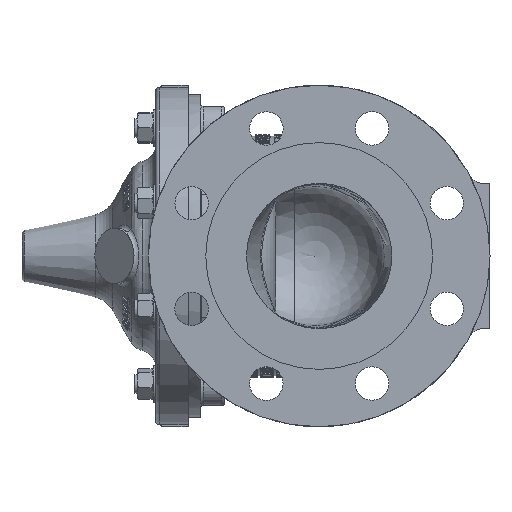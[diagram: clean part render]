
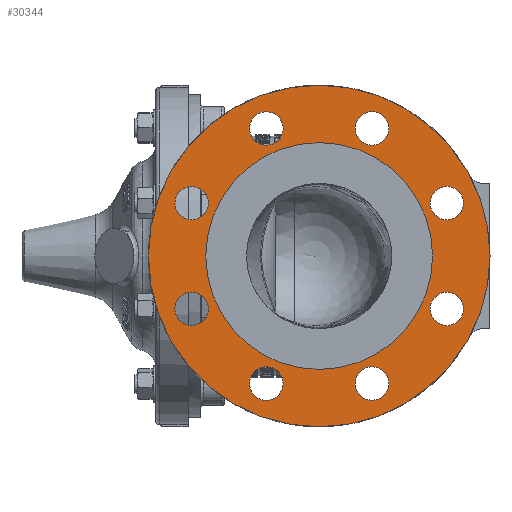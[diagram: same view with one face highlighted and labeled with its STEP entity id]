
A CAD part, left-side view. The second image highlights one B-rep face of the part: STEP entity #30344.
In plain terms, the highlighted planar face has unit normal (-1, 0, 0).
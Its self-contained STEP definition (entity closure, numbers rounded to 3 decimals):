
#4071=FACE_BOUND('',#7633,.T.);
#4072=FACE_BOUND('',#7634,.T.);
#4073=FACE_BOUND('',#7635,.T.);
#4074=FACE_BOUND('',#7636,.T.);
#4075=FACE_BOUND('',#7637,.T.);
#4076=FACE_BOUND('',#7638,.T.);
#4077=FACE_BOUND('',#7639,.T.);
#4078=FACE_BOUND('',#7640,.T.);
#4079=FACE_BOUND('',#7641,.T.);
#4513=PLANE('',#32628);
#5709=FACE_OUTER_BOUND('',#7632,.T.);
#7632=EDGE_LOOP('',(#23766));
#7633=EDGE_LOOP('',(#23767));
#7634=EDGE_LOOP('',(#23768));
#7635=EDGE_LOOP('',(#23769));
#7636=EDGE_LOOP('',(#23770));
#7637=EDGE_LOOP('',(#23771));
#7638=EDGE_LOOP('',(#23772));
#7639=EDGE_LOOP('',(#23773));
#7640=EDGE_LOOP('',(#23774));
#7641=EDGE_LOOP('',(#23775));
#9078=CIRCLE('',#31919,11.5);
#9082=CIRCLE('',#31925,11.5);
#9086=CIRCLE('',#31931,11.5);
#9090=CIRCLE('',#31937,11.5);
#9094=CIRCLE('',#31943,11.5);
#9098=CIRCLE('',#31949,11.5);
#9102=CIRCLE('',#31955,11.5);
#9202=CIRCLE('',#32084,11.5);
#9340=CIRCLE('',#32602,117.5);
#9349=CIRCLE('',#32627,78.);
#12252=VERTEX_POINT('',#48864);
#12256=VERTEX_POINT('',#48876);
#12260=VERTEX_POINT('',#48888);
#12264=VERTEX_POINT('',#48900);
#12268=VERTEX_POINT('',#48912);
#12272=VERTEX_POINT('',#48924);
#12276=VERTEX_POINT('',#48936);
#12636=VERTEX_POINT('',#55690);
#13208=VERTEX_POINT('',#73592);
#13231=VERTEX_POINT('',#73811);
#15558=EDGE_CURVE('',#12252,#12252,#9078,.T.);
#15564=EDGE_CURVE('',#12256,#12256,#9082,.T.);
#15570=EDGE_CURVE('',#12260,#12260,#9086,.T.);
#15576=EDGE_CURVE('',#12264,#12264,#9090,.T.);
#15582=EDGE_CURVE('',#12268,#12268,#9094,.T.);
#15588=EDGE_CURVE('',#12272,#12272,#9098,.T.);
#15594=EDGE_CURVE('',#12276,#12276,#9102,.T.);
#15997=EDGE_CURVE('',#12636,#12636,#9202,.T.);
#17032=EDGE_CURVE('',#13208,#13208,#9340,.T.);
#17072=EDGE_CURVE('',#13231,#13231,#9349,.T.);
#23766=ORIENTED_EDGE('',*,*,#17032,.F.);
#23767=ORIENTED_EDGE('',*,*,#15558,.T.);
#23768=ORIENTED_EDGE('',*,*,#15564,.T.);
#23769=ORIENTED_EDGE('',*,*,#15570,.T.);
#23770=ORIENTED_EDGE('',*,*,#15576,.T.);
#23771=ORIENTED_EDGE('',*,*,#15582,.T.);
#23772=ORIENTED_EDGE('',*,*,#15588,.T.);
#23773=ORIENTED_EDGE('',*,*,#15594,.T.);
#23774=ORIENTED_EDGE('',*,*,#15997,.T.);
#23775=ORIENTED_EDGE('',*,*,#17072,.F.);
#30344=ADVANCED_FACE('',(#5709,#4071,#4072,#4073,#4074,#4075,#4076,#4077,
#4078,#4079),#4513,.T.);
#31919=AXIS2_PLACEMENT_3D('',#48865,#35204,#35205);
#31925=AXIS2_PLACEMENT_3D('',#48877,#35218,#35219);
#31931=AXIS2_PLACEMENT_3D('',#48889,#35232,#35233);
#31937=AXIS2_PLACEMENT_3D('',#48901,#35246,#35247);
#31943=AXIS2_PLACEMENT_3D('',#48913,#35260,#35261);
#31949=AXIS2_PLACEMENT_3D('',#48925,#35274,#35275);
#31955=AXIS2_PLACEMENT_3D('',#48937,#35288,#35289);
#32084=AXIS2_PLACEMENT_3D('',#55691,#35664,#35665);
#32602=AXIS2_PLACEMENT_3D('',#73594,#37205,#37206);
#32627=AXIS2_PLACEMENT_3D('',#73812,#37273,#37274);
#32628=AXIS2_PLACEMENT_3D('',#73814,#37276,#37277);
#35204=DIRECTION('center_axis',(1.,0.,0.));
#35205=DIRECTION('ref_axis',(0.,-0.707,0.707));
#35218=DIRECTION('center_axis',(1.,0.,0.));
#35219=DIRECTION('ref_axis',(0.,-1.,0.));
#35232=DIRECTION('center_axis',(1.,0.,0.));
#35233=DIRECTION('ref_axis',(0.,-0.707,-0.707));
#35246=DIRECTION('center_axis',(1.,0.,0.));
#35247=DIRECTION('ref_axis',(0.,0.,
-1.));
#35260=DIRECTION('center_axis',(1.,0.,0.));
#35261=DIRECTION('ref_axis',(0.,0.707,-0.707));
#35274=DIRECTION('center_axis',(1.,0.,0.));
#35275=DIRECTION('ref_axis',(0.,1.,0.));
#35288=DIRECTION('center_axis',(1.,0.,0.));
#35289=DIRECTION('ref_axis',(0.,0.707,0.707));
#35664=DIRECTION('center_axis',(1.,0.,0.));
#35665=DIRECTION('ref_axis',(0.,0.,
1.));
#37205=DIRECTION('center_axis',(1.,0.,0.));
#37206=DIRECTION('ref_axis',(0.,0.,
-1.));
#37273=DIRECTION('center_axis',(-1.,0.,0.));
#37274=DIRECTION('ref_axis',(0.,0.,
-1.));
#37276=DIRECTION('center_axis',(-1.,0.,0.));
#37277=DIRECTION('ref_axis',(0.,0.,
1.));
#48864=CARTESIAN_POINT('',(-172.,-0.55,-44.487));
#48865=CARTESIAN_POINT('Origin',(-172.,-8.681,-36.355));
#48876=CARTESIAN_POINT('',(-172.,2.819,36.355));
#48877=CARTESIAN_POINT('Origin',(-172.,-8.681,36.355));
#48888=CARTESIAN_POINT('',(-172.,-51.963,95.9));
#48889=CARTESIAN_POINT('Origin',(-172.,-60.095,87.769));
#48900=CARTESIAN_POINT('',(-172.,-132.805,99.269));
#48901=CARTESIAN_POINT('Origin',(-172.,-132.805,87.769));
#48912=CARTESIAN_POINT('',(-172.,-192.35,44.487));
#48913=CARTESIAN_POINT('Origin',(-172.,-184.219,36.355));
#48924=CARTESIAN_POINT('',(-172.,-195.719,-36.355));
#48925=CARTESIAN_POINT('Origin',(-172.,-184.219,-36.355));
#48936=CARTESIAN_POINT('',(-172.,-140.937,-95.9));
#48937=CARTESIAN_POINT('Origin',(-172.,-132.805,-87.769));
#55690=CARTESIAN_POINT('',(-172.,-60.095,-99.269));
#55691=CARTESIAN_POINT('Origin',(-172.,-60.095,-87.769));
#73592=CARTESIAN_POINT('',(-172.,-96.45,117.5));
#73594=CARTESIAN_POINT('Origin',(-172.,-96.45,0.));
#73811=CARTESIAN_POINT('',(-172.,-96.45,78.));
#73812=CARTESIAN_POINT('Origin',(-172.,-96.45,0.));
#73814=CARTESIAN_POINT('Origin',(-172.,-96.45,0.));
